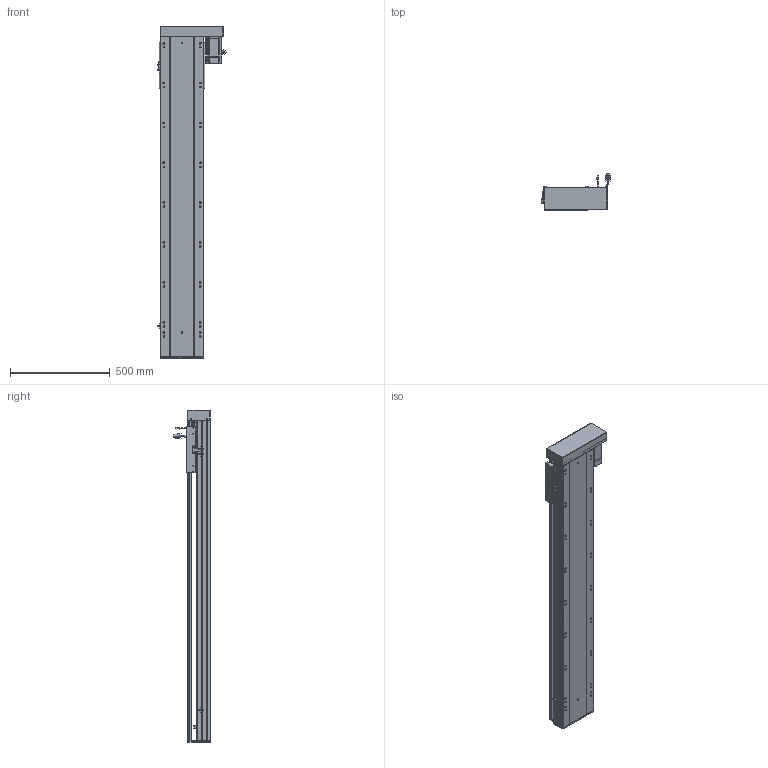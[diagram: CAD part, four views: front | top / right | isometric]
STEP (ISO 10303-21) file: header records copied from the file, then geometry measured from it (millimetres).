
FILE_DESCRIPTION (( 'STEP AP203' ), '1' );
FILE_NAME ('RY220-L2525-800-RK-邧嶺.SLDASM_1250.step', '2022-08-06T08:53:02', ( '' ), ( '' ), 'SwSTEP 2.0', 'SolidWorks 2016', '' );
FILE_SCHEMA (( 'CONFIG_CONTROL_DESIGN' ));
Length unit declared in the file: millimetre
Products named in the file (12): RY220蛌殏菁釱-800-邧嶺_1250; RY220-800-蛌殏奻裔啣_1250; 滅袉蝶18-15; 滅袉蝶18-10; RY220-L2525-800-RK-邧嶺.SLDASM_1250; RY220綴裔啣; RY220左右折电机安装板; RY220酘衵殏萇儂欶; RY220半封闭25-32螺母铝滑块; 怢湛750W_ECMA-CX0807ES; RY220-俋离672覜茼んえ; 覜茼ん672
Assembly tree (15 placements, depth 2):
  RY220-L2525-800-RK-邧嶺.SLDASM_1250
    RY220蛌殏菁釱-800-邧嶺_1250
    RY220-800-蛌殏奻裔啣_1250
    怢湛750W_ECMA-CX0807ES
    滅袉蝶18-10  x2
    RY220-俋离672覜茼んえ
    覜茼ん672  x3
    RY220綴裔啣
    RY220半封闭25-32螺母铝滑块
    滅袉蝶18-15  x2
    RY220左右折电机安装板
    RY220酘衵殏萇儂欶
Bounding box: 347.44 x 187.27 x 1664 mm (x, y, z)
Volume: 13351536.9 mm3; surface area: 3969450.8 mm2
Topology: 16 solids, 16 shells, 2235 faces, 6172 edges, 3893 vertices
Faces by surface type: cylinder 1019, plane 904, cone 242, bspline 44, sphere 16, torus 10
Entity records: 73843 total; most frequent: CARTESIAN_POINT 21353, ORIENTED_EDGE 10888, DIRECTION 10280, EDGE_CURVE 5444, AXIS2_PLACEMENT_3D 3625, VERTEX_POINT 3549, VECTOR 3030, LINE 3030
